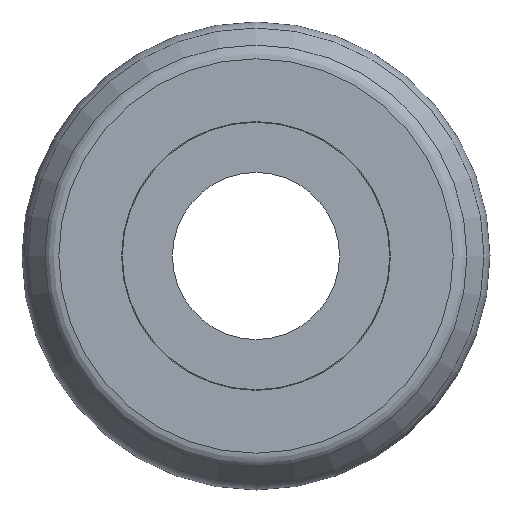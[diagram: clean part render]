
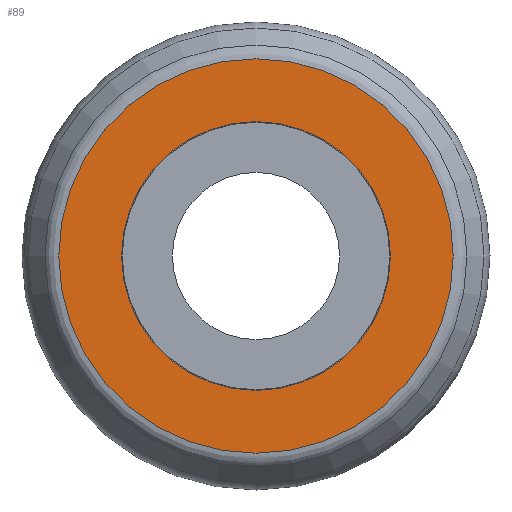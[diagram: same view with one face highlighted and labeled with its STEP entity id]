
A CAD part, left-side view. The second image highlights one B-rep face of the part: STEP entity #89.
In plain terms, the highlighted planar face has unit normal (-1, 0, 0).
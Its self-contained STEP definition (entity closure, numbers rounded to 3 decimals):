
#89 = ADVANCED_FACE( '', ( #136, #137 ), #138, .T. );
#136 = FACE_BOUND( '', #190, .T. );
#137 = FACE_OUTER_BOUND( '', #191, .T. );
#138 = PLANE( '', #192 );
#190 = EDGE_LOOP( '', ( #272 ) );
#191 = EDGE_LOOP( '', ( #273 ) );
#192 = AXIS2_PLACEMENT_3D( '', #274, #275, #276 );
#272 = ORIENTED_EDGE( '', *, *, #307, .T. );
#273 = ORIENTED_EDGE( '', *, *, #306, .F. );
#274 = CARTESIAN_POINT( '', ( -2., 5.899, 0. ) );
#275 = DIRECTION( '', ( -1., 0., 0. ) );
#276 = DIRECTION( '', ( 0., 0., 1. ) );
#306 = EDGE_CURVE( '', #338, #338, #339, .T. );
#307 = EDGE_CURVE( '', #340, #340, #341, .T. );
#338 = VERTEX_POINT( '', #374 );
#339 = CIRCLE( '', #375, 5.899 );
#340 = VERTEX_POINT( '', #376 );
#341 = CIRCLE( '', #377, 4.02 );
#374 = CARTESIAN_POINT( '', ( -2., 0., -5.899 ) );
#375 = AXIS2_PLACEMENT_3D( '', #424, #425, #426 );
#376 = CARTESIAN_POINT( '', ( -2., 0., -4.02 ) );
#377 = AXIS2_PLACEMENT_3D( '', #427, #428, #429 );
#424 = CARTESIAN_POINT( '', ( -2., 0., 0. ) );
#425 = DIRECTION( '', ( 1., 0., 0. ) );
#426 = DIRECTION( '', ( 0., 0., -1. ) );
#427 = CARTESIAN_POINT( '', ( -2., 0., 0. ) );
#428 = DIRECTION( '', ( 1., 0., 0. ) );
#429 = DIRECTION( '', ( 0., 0., -1. ) );
